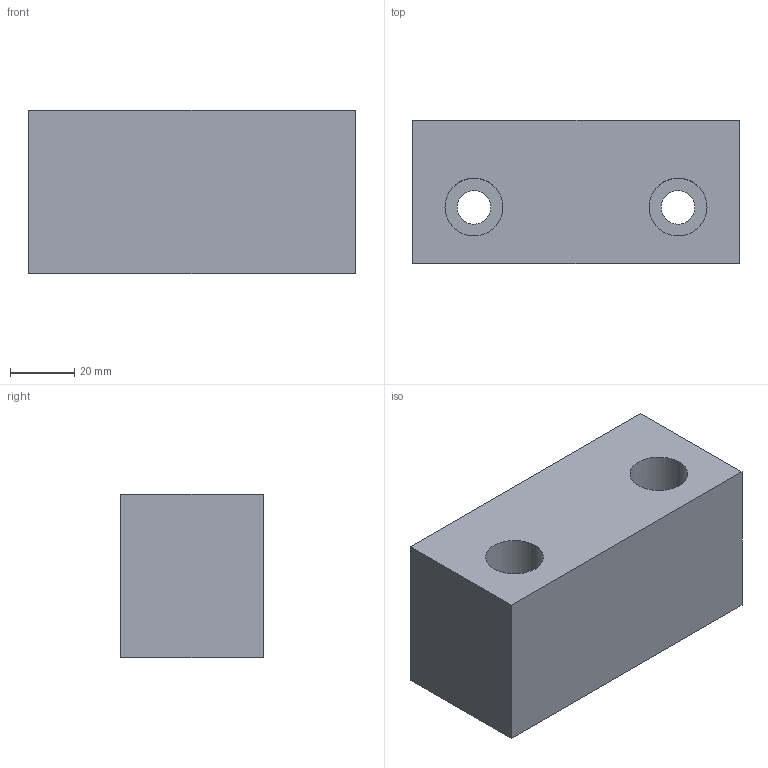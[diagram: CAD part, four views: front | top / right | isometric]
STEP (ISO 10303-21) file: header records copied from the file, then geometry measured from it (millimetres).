
FILE_DESCRIPTION (( 'STEP AP214' ), '1' );
FILE_NAME ('HMVJ-42A, S [05-0086, 05-0089 ref].step', '2023-05-05T20:38:34', ( '' ), ( '' ), 'SwSTEP 2.0', 'SolidWorks 2022', '' );
FILE_SCHEMA (( 'AUTOMOTIVE_DESIGN' ));
Length unit declared in the file: millimetre
Products named in the file (1): HMVJ-42A, S [05-0086, 05-0089 ref]
Bounding box: 101.6 x 44.45 x 50.8 mm (x, y, z)
Volume: 207191 mm3; surface area: 28761 mm2
Topology: 1 solids, 1 shells, 16 faces, 36 edges, 24 vertices
Faces by surface type: cylinder 8, plane 8
Entity records: 608 total; most frequent: DIRECTION 86, CARTESIAN_POINT 77, ORIENTED_EDGE 72, EDGE_CURVE 36, AXIS2_PLACEMENT_3D 33, VERTEX_POINT 24, EDGE_LOOP 22, VECTOR 20
